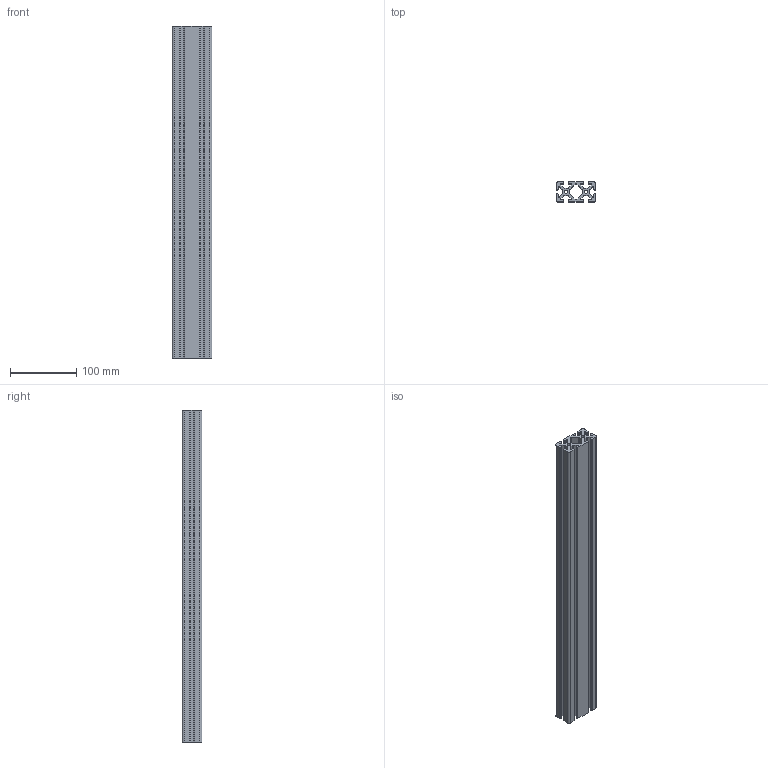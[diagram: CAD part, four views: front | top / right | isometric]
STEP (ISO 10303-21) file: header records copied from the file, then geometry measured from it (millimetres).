
FILE_DESCRIPTION (( 'STEP AP203' ), '1' );
FILE_NAME ('PP3020-500-Rollco.step', '2026-05-04T07:37:40', ( '' ), ( '' ), 'SwSTEP 2.0', 'SolidWorks 2014', '' );
FILE_SCHEMA (( 'CONFIG_CONTROL_DESIGN' ));
Length unit declared in the file: millimetre
Products named in the file (1): PP3020-500-Rollco
Bounding box: 60 x 30 x 500 mm (x, y, z)
Volume: 426249.9 mm3; surface area: 229140.7 mm2
Topology: 1 solids, 1 shells, 126 faces, 372 edges, 248 vertices
Faces by surface type: cylinder 66, plane 60
Entity records: 4337 total; most frequent: DIRECTION 758, CARTESIAN_POINT 747, ORIENTED_EDGE 744, EDGE_CURVE 372, AXIS2_PLACEMENT_3D 259, VERTEX_POINT 248, LINE 240, VECTOR 240
